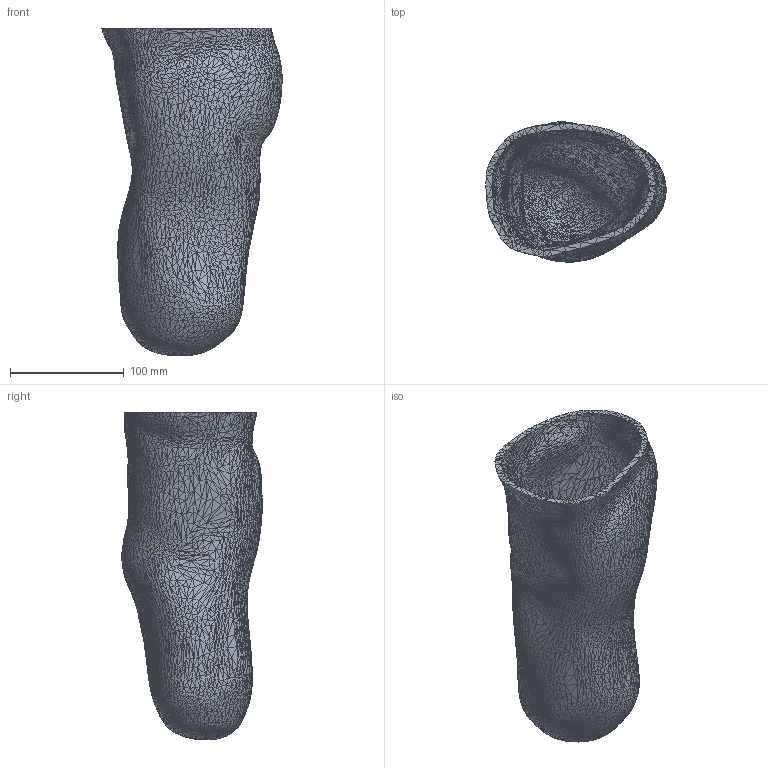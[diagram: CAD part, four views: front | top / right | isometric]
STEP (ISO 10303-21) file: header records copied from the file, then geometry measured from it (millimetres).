
FILE_DESCRIPTION(/* description */ (''),/* implementation_level */ '2;1');
FILE_NAME(/* name */ 'PLAIN_~1',/* time_stamp */ '2015-06-18T14:31:22+01:00',/* author */ (''),/* organization */ (''),/* preprocessor_version */ 'ST-DEVELOPER v15',/* originating_system */ '',/* authorisation */ '');
FILE_SCHEMA (('AUTOMOTIVE_DESIGN'));
Products named in the file (1): Document
Bounding box: 158.81 x 123.66 x 288.94 mm (x, y, z)
Volume: 499316.8 mm3; surface area: 202025.9 mm2
Topology: 1 solids, 1 shells, 20000 faces, 30000 edges, 10002 vertices
Faces by surface type: bspline 20000
Entity records: 360031 total; most frequent: CARTESIAN_POINT 150004, ORIENTED_EDGE 60000, EDGE_CURVE 30000, B_SPLINE_CURVE_WITH_KNOTS 30000, ADVANCED_FACE 20000, FACE_OUTER_BOUND 20000, EDGE_LOOP 20000, B_SPLINE_SURFACE_WITH_KNOTS 20000
